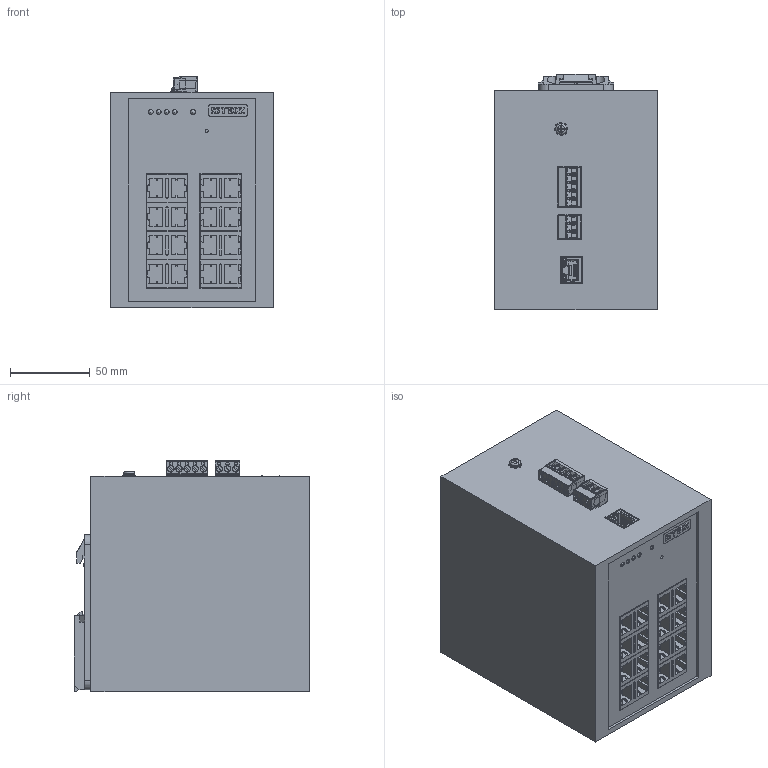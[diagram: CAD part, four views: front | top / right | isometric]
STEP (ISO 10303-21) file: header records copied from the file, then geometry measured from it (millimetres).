
FILE_DESCRIPTION(('TFLEX Exchange Step'),'2;1');
FILE_NAME('70110040_STEZ3216-PN.stp', '2025-08-28T08:30:37+03:00',('YLedovskikh'),('Unknown organisation'),'TFLEX Exchange 2023.2','T-FLEX CAD','Unknown authorisation');
FILE_SCHEMA( ('AUTOMOTIVE_DESIGN { 1 0 10303 214 1 1 1 1 }') );
Length unit declared in the file: millimetre
Products named in the file (1): STEZ3216-PN:1
Bounding box: 102 x 147.5 x 145.1 mm (x, y, z)
Volume: 1873731.5 mm3; surface area: 154848.9 mm2
Topology: 5 solids, 32 shells, 3817 faces, 11285 edges, 7421 vertices
Faces by surface type: plane 2798, cylinder 699, bspline 185, extrusion 80, cone 32, sphere 17, torus 6
Full cylindrical faces by diameter (mm): 1.3 x8, 2 x16, 3 x13, 3.821 x8, 4 x9, 4.4 x1, 6.8 x1
Entity records: 131774 total; most frequent: CARTESIAN_POINT 28692, ORIENTED_EDGE 22528, DIRECTION 19361, EDGE_CURVE 11264, VECTOR 8849, LINE 8769, VERTEX_POINT 7413, AXIS2_PLACEMENT_3D 5256
